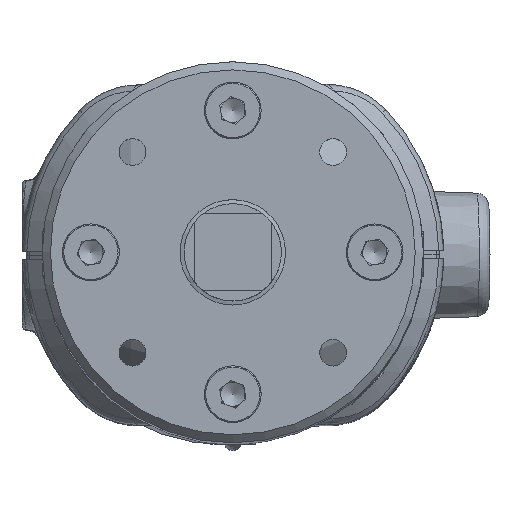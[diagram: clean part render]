
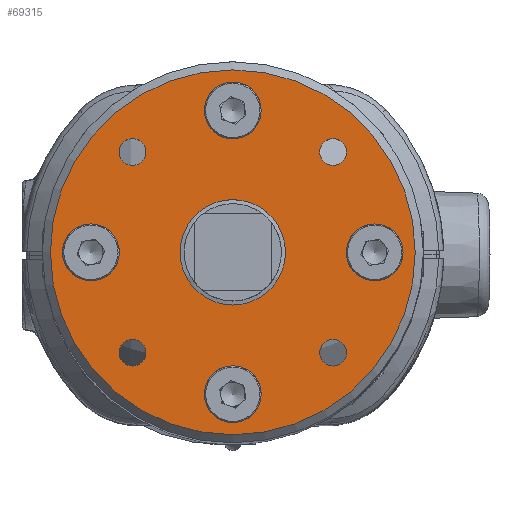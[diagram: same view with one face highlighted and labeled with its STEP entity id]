
A CAD part, top view. The second image highlights one B-rep face of the part: STEP entity #69315.
In plain terms, the highlighted planar face has unit normal (0, 0, 1).
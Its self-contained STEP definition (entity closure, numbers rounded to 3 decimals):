
#3009 = CIRCLE ( 'NONE', #57989, 3.5 ) ;
#3480 = DIRECTION ( 'NONE',  ( 0., -1., 0. ) ) ;
#3776 = DIRECTION ( 'NONE',  ( 0., 0., 1. ) ) ;
#3827 = VERTEX_POINT ( 'NONE', #42563 ) ;
#4096 = CIRCLE ( 'NONE', #13768, 22.5 ) ;
#5333 = EDGE_CURVE ( 'NONE', #65062, #65062, #60814, .T. ) ;
#5474 = CARTESIAN_POINT ( 'NONE',  ( -11.725, 12.374, 5.4 ) ) ;
#7175 = ORIENTED_EDGE ( 'NONE', *, *, #5333, .F. ) ;
#8208 = CARTESIAN_POINT ( 'NONE',  ( -16.85, 3.5, 5.4 ) ) ;
#8423 = AXIS2_PLACEMENT_3D ( 'NONE', #62462, #70191, #3480 ) ;
#8646 = CARTESIAN_POINT ( 'NONE',  ( 14.674, 12.374, 5.4 ) ) ;
#8661 = AXIS2_PLACEMENT_3D ( 'NONE', #21474, #73980, #69266 ) ;
#8789 = DIRECTION ( 'NONE',  ( 0., -1., 0. ) ) ;
#9176 = CARTESIAN_POINT ( 'NONE',  ( 0.65, 17.5, 5.4 ) ) ;
#10388 = DIRECTION ( 'NONE',  ( 0., 0., 1. ) ) ;
#11981 = DIRECTION ( 'NONE',  ( 0., 0., 1. ) ) ;
#13768 = AXIS2_PLACEMENT_3D ( 'NONE', #63504, #76363, #77661 ) ;
#15437 = ORIENTED_EDGE ( 'NONE', *, *, #68340, .F. ) ;
#15482 = AXIS2_PLACEMENT_3D ( 'NONE', #69386, #10388, #43478 ) ;
#16731 = FACE_BOUND ( 'NONE', #27690, .T. ) ;
#17987 = FACE_BOUND ( 'NONE', #84323, .T. ) ;
#20293 = ORIENTED_EDGE ( 'NONE', *, *, #24636, .F. ) ;
#21121 = VERTEX_POINT ( 'NONE', #8646 ) ;
#21474 = CARTESIAN_POINT ( 'NONE',  ( 0.65, -17.5, 5.4 ) ) ;
#22534 = EDGE_LOOP ( 'NONE', ( #83772 ) ) ;
#22788 = ORIENTED_EDGE ( 'NONE', *, *, #39535, .F. ) ;
#23004 = EDGE_LOOP ( 'NONE', ( #24454 ) ) ;
#23324 = DIRECTION ( 'NONE',  ( 0., 0., 1. ) ) ;
#23864 = DIRECTION ( 'NONE',  ( 0., 0., 1. ) ) ;
#24048 = VERTEX_POINT ( 'NONE', #70139 ) ;
#24454 = ORIENTED_EDGE ( 'NONE', *, *, #41872, .F. ) ;
#24466 = EDGE_CURVE ( 'NONE', #39207, #39207, #37488, .T. ) ;
#24636 = EDGE_CURVE ( 'NONE', #68049, #68049, #73147, .T. ) ;
#25000 = AXIS2_PLACEMENT_3D ( 'NONE', #5474, #3776, #64457 ) ;
#25726 = FACE_BOUND ( 'NONE', #23004, .T. ) ;
#26413 = EDGE_LOOP ( 'NONE', ( #67858 ) ) ;
#26580 = FACE_BOUND ( 'NONE', #32006, .T. ) ;
#27690 = EDGE_LOOP ( 'NONE', ( #22788 ) ) ;
#27970 = CARTESIAN_POINT ( 'NONE',  ( 13.024, -14.024, 5.4 ) ) ;
#30533 = AXIS2_PLACEMENT_3D ( 'NONE', #9176, #23324, #49167 ) ;
#30904 = EDGE_CURVE ( 'NONE', #73196, #73196, #56358, .T. ) ;
#31166 = EDGE_LOOP ( 'NONE', ( #37289 ) ) ;
#32006 = EDGE_LOOP ( 'NONE', ( #7175 ) ) ;
#33030 = DIRECTION ( 'NONE',  ( 0., 0., -1. ) ) ;
#36252 = CARTESIAN_POINT ( 'NONE',  ( -16.85, 0., 5.4 ) ) ;
#36440 = AXIS2_PLACEMENT_3D ( 'NONE', #51608, #33030, #72254 ) ;
#37289 = ORIENTED_EDGE ( 'NONE', *, *, #24466, .F. ) ;
#37488 = CIRCLE ( 'NONE', #8661, 3.5 ) ;
#37710 = AXIS2_PLACEMENT_3D ( 'NONE', #36252, #55239, #68177 ) ;
#37808 = VERTEX_POINT ( 'NONE', #62818 ) ;
#39207 = VERTEX_POINT ( 'NONE', #65482 ) ;
#39535 = EDGE_CURVE ( 'NONE', #21121, #21121, #52632, .T. ) ;
#39619 = CARTESIAN_POINT ( 'NONE',  ( 4.15, 17.5, 5.4 ) ) ;
#41074 = EDGE_LOOP ( 'NONE', ( #15437 ) ) ;
#41872 = EDGE_CURVE ( 'NONE', #55100, #55100, #69351, .T. ) ;
#42563 = CARTESIAN_POINT ( 'NONE',  ( 18.15, -3.5, 5.4 ) ) ;
#42995 = FACE_BOUND ( 'NONE', #53551, .T. ) ;
#43478 = DIRECTION ( 'NONE',  ( 1., 0., 0. ) ) ;
#44070 = DIRECTION ( 'NONE',  ( 0., -1., 0. ) ) ;
#45110 = FACE_BOUND ( 'NONE', #31166, .T. ) ;
#47335 = AXIS2_PLACEMENT_3D ( 'NONE', #53179, #11981, #79828 ) ;
#48207 = CARTESIAN_POINT ( 'NONE',  ( -11.725, 14.024, 5.4 ) ) ;
#49055 = CARTESIAN_POINT ( 'NONE',  ( 0.65, -6.5, 5.4 ) ) ;
#49167 = DIRECTION ( 'NONE',  ( 1., 0., 0. ) ) ;
#51608 = CARTESIAN_POINT ( 'NONE',  ( 0.65, 0., 5.4 ) ) ;
#52632 = CIRCLE ( 'NONE', #15482, 1.65 ) ;
#53179 = CARTESIAN_POINT ( 'NONE',  ( -11.725, -12.374, 5.4 ) ) ;
#53551 = EDGE_LOOP ( 'NONE', ( #60558 ) ) ;
#55100 = VERTEX_POINT ( 'NONE', #8208 ) ;
#55239 = DIRECTION ( 'NONE',  ( 0., 0., 1. ) ) ;
#56358 = CIRCLE ( 'NONE', #71559, 1.65 ) ;
#56457 = EDGE_CURVE ( 'NONE', #24048, #24048, #4096, .T. ) ;
#57989 = AXIS2_PLACEMENT_3D ( 'NONE', #69542, #23864, #44070 ) ;
#58054 = FACE_OUTER_BOUND ( 'NONE', #22534, .T. ) ;
#58903 = FACE_BOUND ( 'NONE', #26413, .T. ) ;
#60558 = ORIENTED_EDGE ( 'NONE', *, *, #30904, .F. ) ;
#60814 = CIRCLE ( 'NONE', #30533, 3.5 ) ;
#62462 = CARTESIAN_POINT ( 'NONE',  ( 0.65, 0., 5.4 ) ) ;
#62818 = CARTESIAN_POINT ( 'NONE',  ( -13.375, -12.374, 5.4 ) ) ;
#62947 = EDGE_CURVE ( 'NONE', #70576, #70576, #68959, .T. ) ;
#63263 = EDGE_CURVE ( 'NONE', #3827, #3827, #3009, .T. ) ;
#63504 = CARTESIAN_POINT ( 'NONE',  ( 0.65, 0., 5.4 ) ) ;
#64457 = DIRECTION ( 'NONE',  ( 0., 1., 0. ) ) ;
#64940 = PLANE ( 'NONE',  #36440 ) ;
#65062 = VERTEX_POINT ( 'NONE', #39619 ) ;
#65482 = CARTESIAN_POINT ( 'NONE',  ( -2.85, -17.5, 5.4 ) ) ;
#67319 = DIRECTION ( 'NONE',  ( 0., 0., 1. ) ) ;
#67858 = ORIENTED_EDGE ( 'NONE', *, *, #62947, .F. ) ;
#68049 = VERTEX_POINT ( 'NONE', #48207 ) ;
#68177 = DIRECTION ( 'NONE',  ( 0., 1., 0. ) ) ;
#68340 = EDGE_CURVE ( 'NONE', #37808, #37808, #72072, .T. ) ;
#68959 = CIRCLE ( 'NONE', #8423, 6.5 ) ;
#69029 = CARTESIAN_POINT ( 'NONE',  ( 13.024, -12.374, 5.4 ) ) ;
#69266 = DIRECTION ( 'NONE',  ( -1., 0., 0. ) ) ;
#69310 = FACE_BOUND ( 'NONE', #41074, .T. ) ;
#69315 = ADVANCED_FACE ( 'NONE', ( #70131, #16731, #42995, #69310, #58054, #25726, #26580, #17987, #45110, #58903 ), #64940, .F. ) ;
#69351 = CIRCLE ( 'NONE', #37710, 3.5 ) ;
#69386 = CARTESIAN_POINT ( 'NONE',  ( 13.024, 12.374, 5.4 ) ) ;
#69542 = CARTESIAN_POINT ( 'NONE',  ( 18.15, 0., 5.4 ) ) ;
#69913 = EDGE_LOOP ( 'NONE', ( #20293 ) ) ;
#70131 = FACE_BOUND ( 'NONE', #69913, .T. ) ;
#70139 = CARTESIAN_POINT ( 'NONE',  ( 23.15, 0., 5.4 ) ) ;
#70191 = DIRECTION ( 'NONE',  ( 0., 0., 1. ) ) ;
#70576 = VERTEX_POINT ( 'NONE', #49055 ) ;
#71559 = AXIS2_PLACEMENT_3D ( 'NONE', #69029, #67319, #8789 ) ;
#71775 = ORIENTED_EDGE ( 'NONE', *, *, #63263, .F. ) ;
#72072 = CIRCLE ( 'NONE', #47335, 1.65 ) ;
#72254 = DIRECTION ( 'NONE',  ( 1., 0., 0. ) ) ;
#73147 = CIRCLE ( 'NONE', #25000, 1.65 ) ;
#73196 = VERTEX_POINT ( 'NONE', #27970 ) ;
#73980 = DIRECTION ( 'NONE',  ( 0., 0., 1. ) ) ;
#76363 = DIRECTION ( 'NONE',  ( 0., 0., 1. ) ) ;
#77661 = DIRECTION ( 'NONE',  ( 1., 0., 0. ) ) ;
#79828 = DIRECTION ( 'NONE',  ( -1., 0., 0. ) ) ;
#83772 = ORIENTED_EDGE ( 'NONE', *, *, #56457, .T. ) ;
#84323 = EDGE_LOOP ( 'NONE', ( #71775 ) ) ;
